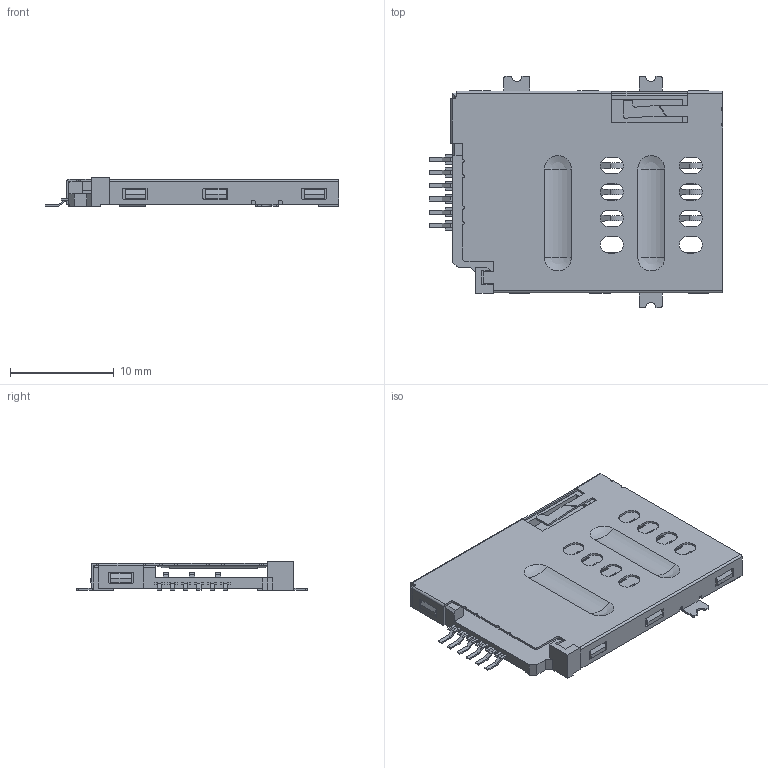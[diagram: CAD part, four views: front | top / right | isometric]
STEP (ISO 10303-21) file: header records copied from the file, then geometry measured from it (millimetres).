
FILE_DESCRIPTION((''),'2;1');
FILE_NAME('1050340001','2015-10-27T',('me'),(''),'PRO/ENGINEER BY PARAMETRIC TECHNOLOGY CORPORATION, 2011490','PRO/ENGINEER BY PARAMETRIC TECHNOLOGY CORPORATION, 2011490','');
FILE_SCHEMA(('CONFIG_CONTROL_DESIGN'));
Length unit declared in the file: millimetre
Products named in the file (1): 1050340001
Bounding box: 28.3 x 22.3 x 2.75 mm (x, y, z)
Volume: 624.5 mm3; surface area: 2199.1 mm2
Topology: 1 solids, 1 shells, 592 faces, 1742 edges, 1170 vertices
Faces by surface type: plane 470, cylinder 114, sphere 8
Entity records: 19450 total; most frequent: CARTESIAN_POINT 3427, ORIENTED_EDGE 3338, DIRECTION 3166, EDGE_CURVE 1669, VECTOR 1488, LINE 1488, VERTEX_POINT 1100, AXIS2_PLACEMENT_3D 839
